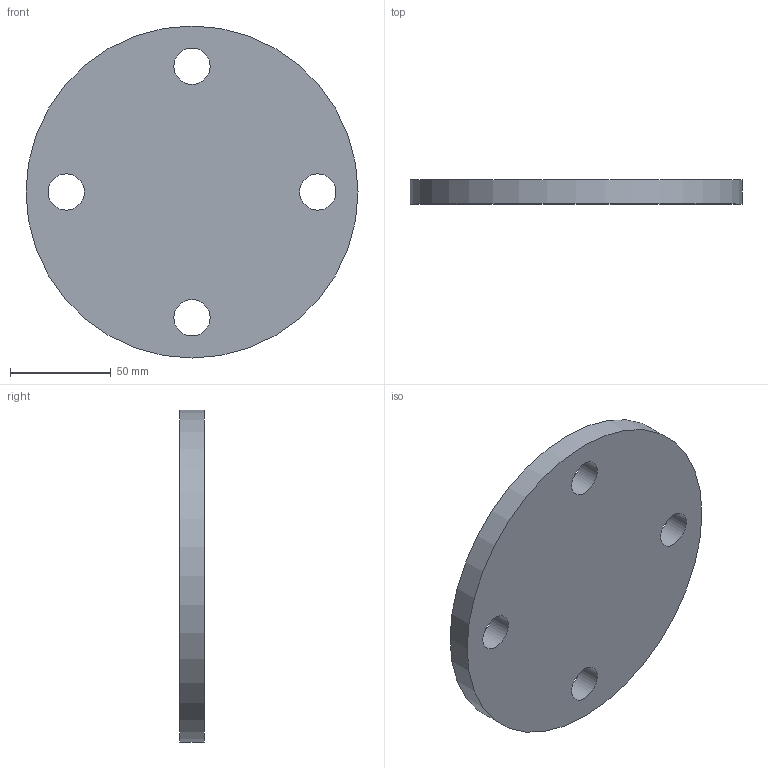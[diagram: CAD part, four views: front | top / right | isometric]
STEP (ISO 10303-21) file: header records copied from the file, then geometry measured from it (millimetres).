
FILE_DESCRIPTION(/* description */ (''),/* implementation_level */ '2;1');
FILE_NAME(/* name */ 'Z:\Geberit\Export\NewStep\363748.stp',/* time_stamp */ '2014-04-01T21:09:42+02:00',/* author */ ('nelson'),/* organization */ (''),/* preprocessor_version */ 'ST-DEVELOPER v15.2',/* originating_system */ 'Autodesk Inventor 2014',/* authorisation */ '');
FILE_SCHEMA (('AUTOMOTIVE_DESIGN { 1 0 10303 214 3 1 1 }'));
Length unit declared in the file: millimetre
Products named in the file (1): 363748
Bounding box: 165 x 12 x 165 mm (x, y, z)
Volume: 244375.1 mm3; surface area: 49663.9 mm2
Topology: 1 solids, 1 shells, 7 faces, 15 edges, 10 vertices
Faces by surface type: cylinder 5, plane 2
Full cylindrical faces by diameter (mm): 18 x4, 165 x1
Entity records: 211 total; most frequent: DIRECTION 36, CARTESIAN_POINT 28, EDGE_LOOP 20, ORIENTED_EDGE 20, AXIS2_PLACEMENT_3D 18, FACE_BOUND 15, CIRCLE 10, VERTEX_POINT 10
